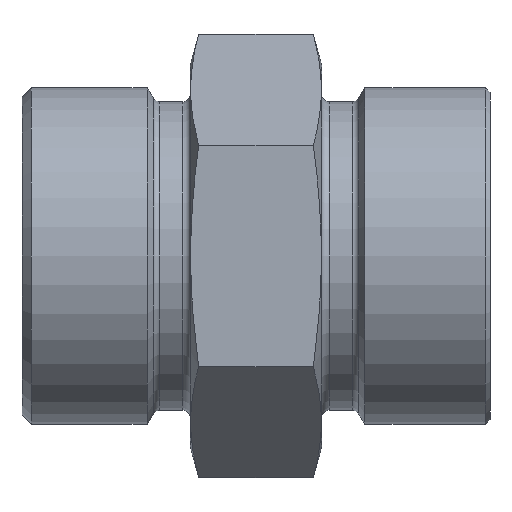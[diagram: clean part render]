
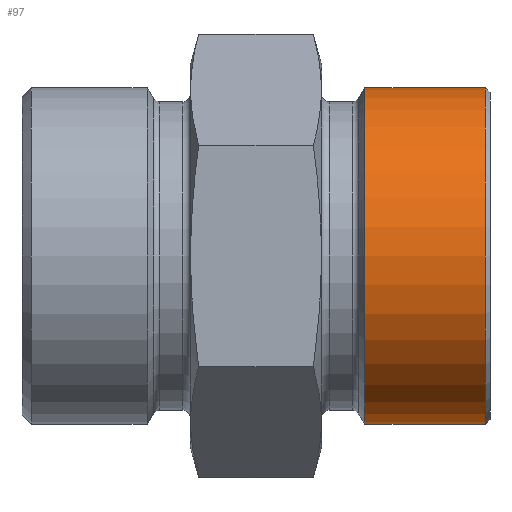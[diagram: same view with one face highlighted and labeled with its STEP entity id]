
A CAD part, front view. The second image highlights one B-rep face of the part: STEP entity #97.
In plain terms, the highlighted cylindrical face has radius 18 mm (diameter 36 mm), a full revolution.
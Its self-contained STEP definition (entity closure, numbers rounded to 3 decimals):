
#97 = ADVANCED_FACE( '', ( #212, #213 ), #214, .T. );
#212 = FACE_OUTER_BOUND( '', #337, .T. );
#213 = FACE_OUTER_BOUND( '', #338, .T. );
#214 = CYLINDRICAL_SURFACE( '', #339, 18. );
#337 = EDGE_LOOP( '', ( #521 ) );
#338 = EDGE_LOOP( '', ( #522 ) );
#339 = AXIS2_PLACEMENT_3D( '', #523, #524, #525 );
#521 = ORIENTED_EDGE( '', *, *, #597, .T. );
#522 = ORIENTED_EDGE( '', *, *, #622, .F. );
#523 = CARTESIAN_POINT( '', ( 60., 0., 0. ) );
#524 = DIRECTION( '', ( 1., 0., 0. ) );
#525 = DIRECTION( '', ( 0., 0., 1. ) );
#597 = EDGE_CURVE( '', #679, #679, #680, .F. );
#622 = EDGE_CURVE( '', #717, #717, #718, .T. );
#679 = VERTEX_POINT( '', #824 );
#680 = CIRCLE( '', #825, 18. );
#717 = VERTEX_POINT( '', #914 );
#718 = CIRCLE( '', #915, 18. );
#824 = CARTESIAN_POINT( '', ( 24.5, 0., -18. ) );
#825 = AXIS2_PLACEMENT_3D( '', #989, #990, #991 );
#914 = CARTESIAN_POINT( '', ( 11.635, 0., 18. ) );
#915 = AXIS2_PLACEMENT_3D( '', #1018, #1019, #1020 );
#989 = CARTESIAN_POINT( '', ( 24.5, 0., 0. ) );
#990 = DIRECTION( '', ( 1., 0., 0. ) );
#991 = DIRECTION( '', ( 0., 0., -1. ) );
#1018 = CARTESIAN_POINT( '', ( 11.635, 0., 0. ) );
#1019 = DIRECTION( '', ( -1., 0., 0. ) );
#1020 = DIRECTION( '', ( 0., 0., 1. ) );
